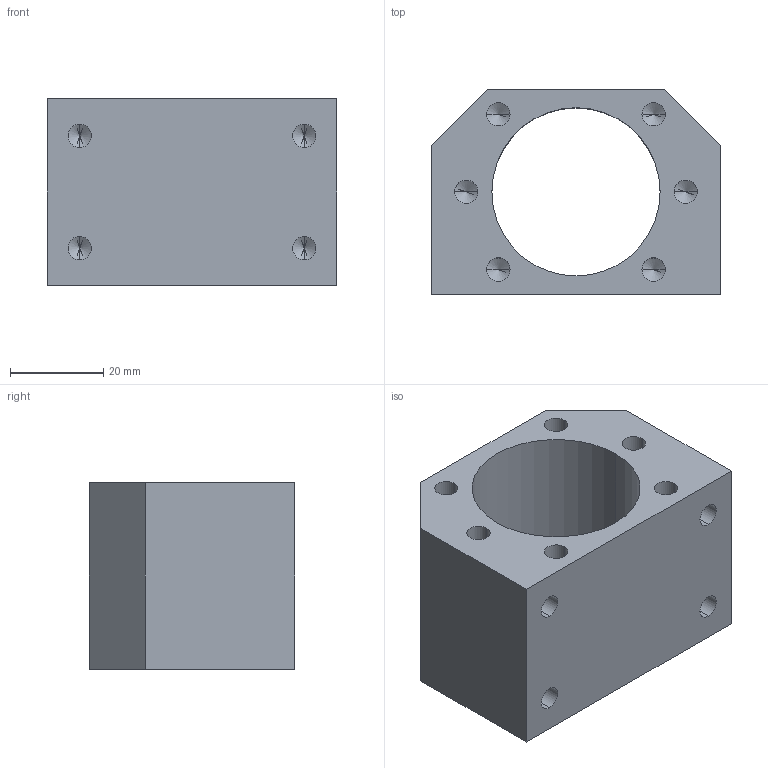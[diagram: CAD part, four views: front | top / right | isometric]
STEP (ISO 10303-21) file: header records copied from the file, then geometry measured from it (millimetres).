
FILE_DESCRIPTION (( 'STEP AP203' ), '1' );
FILE_NAME ('DSG2005_2010.STEP', '2025-02-12T16:45:36', ( '' ), ( '' ), 'SwSTEP 2.0', 'SolidWorks 2019', '' );
FILE_SCHEMA (( 'CONFIG_CONTROL_DESIGN' ));
Length unit declared in the file: millimetre
Products named in the file (1): DSG2005_2010
Bounding box: 62 x 44 x 40 mm (x, y, z)
Volume: 59601.4 mm3; surface area: 17962.7 mm2
Topology: 1 solids, 1 shells, 50 faces, 124 edges, 66 vertices
Faces by surface type: cylinder 22, cone 20, plane 8
Entity records: 1413 total; most frequent: DIRECTION 250, CARTESIAN_POINT 221, ORIENTED_EDGE 208, EDGE_CURVE 104, AXIS2_PLACEMENT_3D 95, VERTEX_POINT 66, EDGE_LOOP 62, LINE 60
